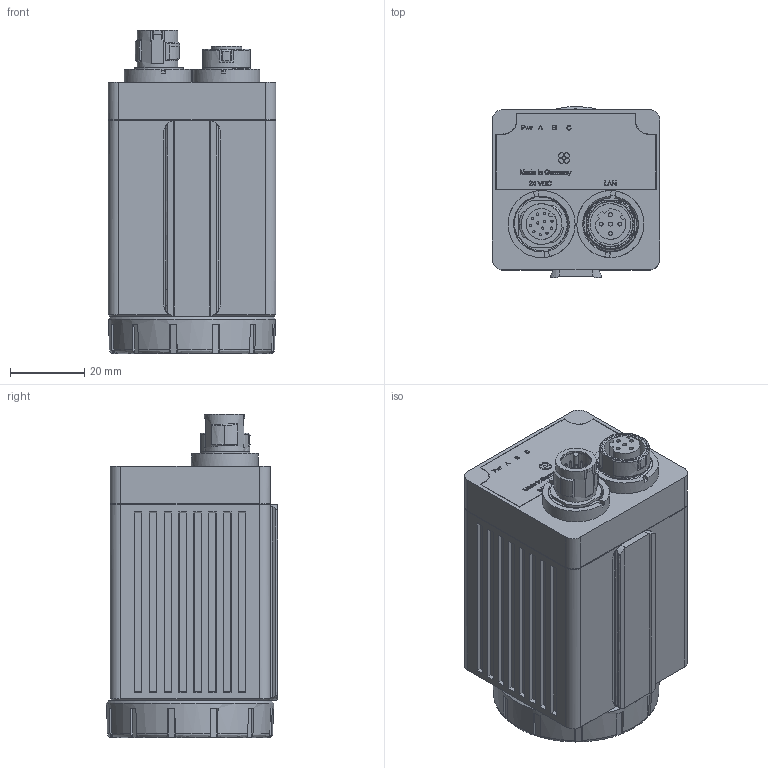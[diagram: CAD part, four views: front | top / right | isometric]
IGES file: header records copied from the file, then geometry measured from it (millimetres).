
Global section: file name: 153-13555_VISOR 2 C-Mount; native system: Autodesk Inventor 2018; preprocessor: unknown; author: ss; date: 20181025.094813; units: millimetre
Bounding box: 45 x 45.97 x 86.78 mm (x, y, z)
Volume: 2299.5 mm3; surface area: 25456.8 mm2
Topology: 1 solids, 5 shells, 566 faces, 1748 edges, 1285 vertices
Faces by surface type: bspline 566
